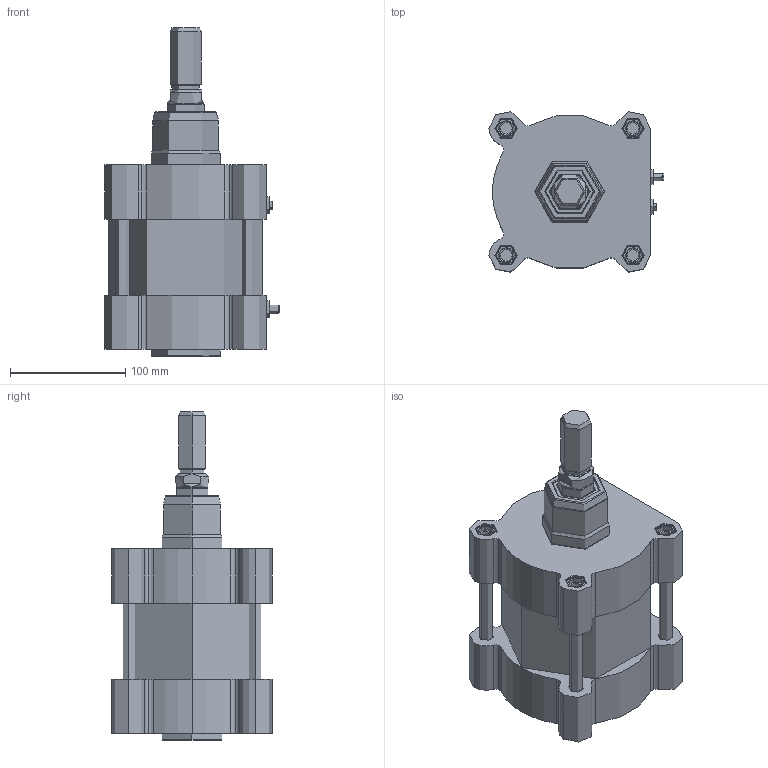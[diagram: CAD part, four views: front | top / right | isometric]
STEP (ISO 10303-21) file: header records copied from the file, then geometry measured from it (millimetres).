
FILE_DESCRIPTION(('STEP AP214'),'1');
FILE_NAME('81M125A0000.stp','2016-07-11T07:32:57',(' '),(' '),'Spatial InterOp 3D',' ',' ');
FILE_SCHEMA(('automotive_design'));
Length unit declared in the file: millimetre
Products named in the file (6): 81M125A0000; STELO-000; TA; TIRANTE-000; TP; TUBO-000
Assembly tree (8 placements, depth 2):
  81M125A0000
    STELO-000
    TA
    TIRANTE-000  x4
    TP
    TUBO-000
Bounding box: 151.1 x 138.84 x 285 mm (x, y, z)
Volume: 1916570.6 mm3; surface area: 297274.8 mm2
Topology: 17 solids, 17 shells, 774 faces, 1755 edges, 1064 vertices
Faces by surface type: cone 292, cylinder 225, plane 191, torus 56, revolution 10
Full cylindrical faces by diameter (mm): 9.3 x1
Entity records: 28421 total; most frequent: CARTESIAN_POINT 4418, DIRECTION 4071, ORIENTED_EDGE 3474, EDGE_CURVE 1737, AXIS2_PLACEMENT_3D 1667, VERTEX_POINT 1052, CIRCLE 894, EDGE_LOOP 855
